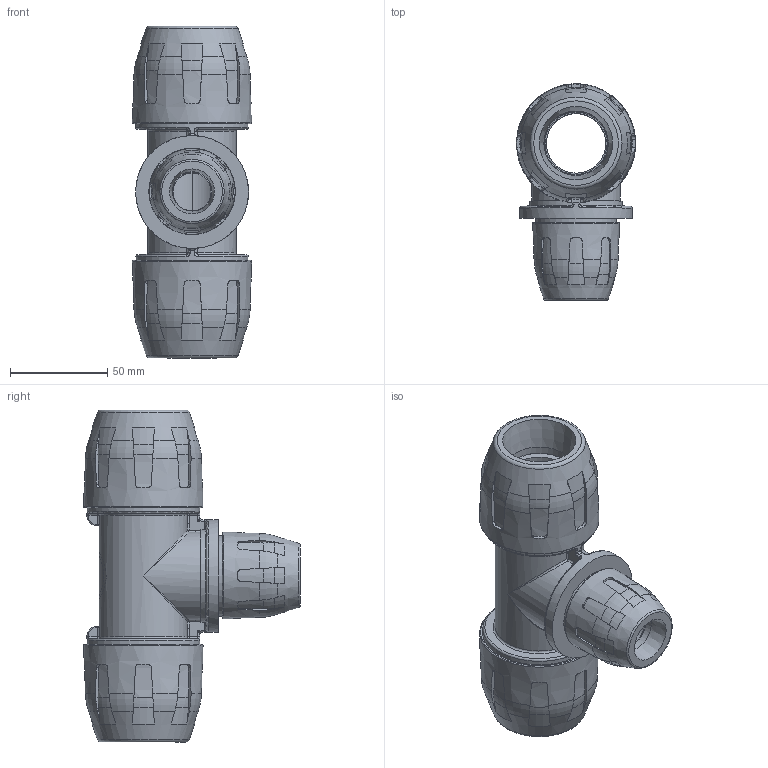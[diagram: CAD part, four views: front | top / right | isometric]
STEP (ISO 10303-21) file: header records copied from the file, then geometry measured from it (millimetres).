
FILE_DESCRIPTION( ( 'STEP AP214' ), '1' );
FILE_NAME( ' ', ' ', ( ' ' ), ( ' ' ), 'PSStep 11.0', 'VISI 17.0', ' ' );
FILE_SCHEMA( ( 'AUTOMOTIVE_DESIGN { 1 0 10303 214 1 1 1 1 }' ) );
Length unit declared in the file: millimetre
Products named in the file (6): 1; 2; 3; 4; 5; 6
Bounding box: 61.21 x 111.17 x 170.52 mm (x, y, z)
Volume: 303939.6 mm3; surface area: 106383.8 mm2
Topology: 6 solids, 6 shells, 776 faces, 2101 edges, 1341 vertices
Faces by surface type: plane 343, cone 167, cylinder 131, bspline 90, torus 37, sphere 8
Full cylindrical faces by diameter (mm): 19.5 x1, 20.5 x1, 20.6 x1, 24.7 x2, 30.6 x1, 32.2 x1, 32.3 x1, 32.957 x2, 33.44 x2, 33.9 x1, 36 x1, 36.739 x1, 36.8 x1, 37.4 x1, 41.4 x1, 42 x1, 47.2 x2, 48.202 x4, 48.693 x2, 51.2 x2, 52 x2, 58 x3, 58.6 x2
Entity records: 38873 total; most frequent: CARTESIAN_POINT 14589, ORIENTED_EDGE 3956, DIRECTION 3522, EDGE_CURVE 1978, AXIS2_PLACEMENT_3D 1521, VERTEX_POINT 1310, EDGE_LOOP 886, FACE_OUTER_BOUND 831
